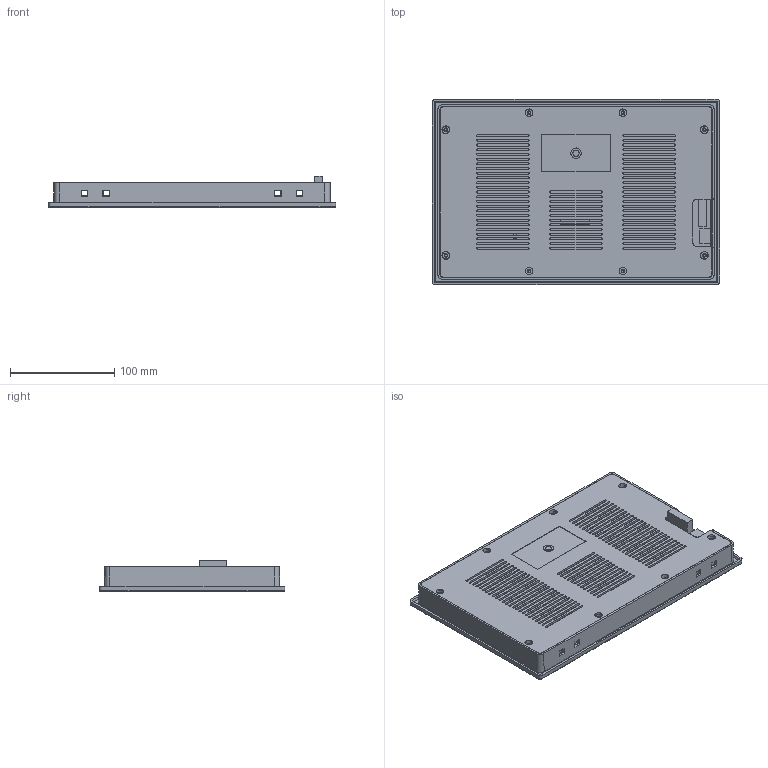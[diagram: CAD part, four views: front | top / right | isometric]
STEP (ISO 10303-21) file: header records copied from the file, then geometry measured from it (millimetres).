
FILE_DESCRIPTION(/* description */ (''),/* implementation_level */ '2;1');
FILE_NAME(/* name */ 'SDWb101S24A.stp',/* time_stamp */ '2026-07-08T17:04:05+08:00',/* author */ (''),/* organization */ (''),/* preprocessor_version */ 'ST-DEVELOPER v16',/* originating_system */ 'SIEMENS PLM Software NX 10.0',/* authorisation */ '');
FILE_SCHEMA (('AP203_CONFIGURATION_CONTROLLED_3D_DESIGN_OF_MECHANICAL_PARTS_AND_ASSEMBLIES_MIM_LF { 1 0 10303 403 2 1 2}'));
Length unit declared in the file: millimetre
Products named in the file (1): SDWb101S24A
Bounding box: 275.4 x 178 x 30.01 mm (x, y, z)
Volume: 233890.1 mm3; surface area: 459573.3 mm2
Topology: 7 solids, 7 shells, 1013 faces, 2896 edges, 1920 vertices
Faces by surface type: plane 559, cone 319, cylinder 94, bspline 36, extrusion 5
Full cylindrical faces by diameter (mm): 2 x1, 3.5 x4, 5 x1, 5.2 x1, 7 x1
Entity records: 43674 total; most frequent: CARTESIAN_POINT 9950, ORIENTED_EDGE 5782, DIRECTION 5332, EDGE_CURVE 2891, VERTEX_POINT 1924, VECTOR 1798, LINE 1793, AXIS2_PLACEMENT_3D 1767
